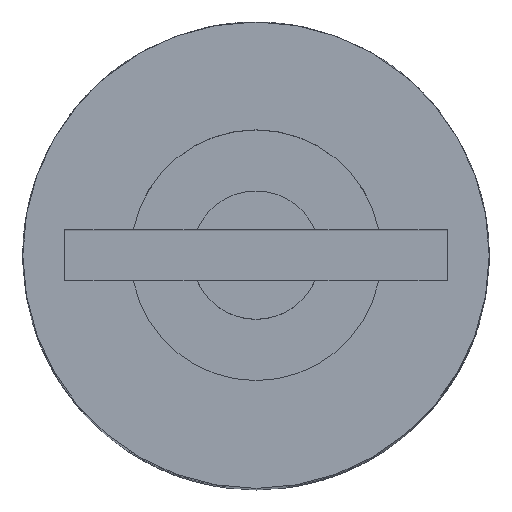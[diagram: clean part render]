
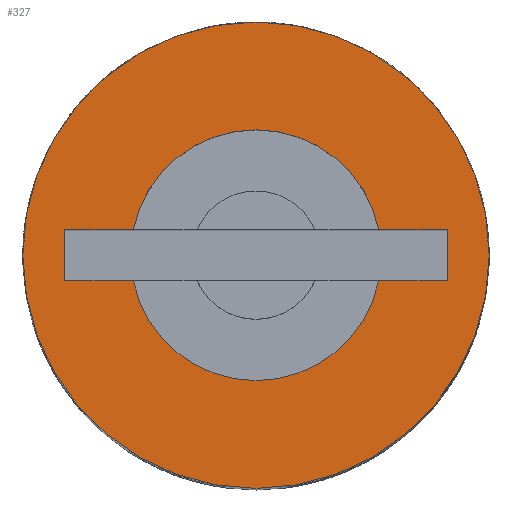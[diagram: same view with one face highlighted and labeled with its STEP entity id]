
A CAD part, top view. The second image highlights one B-rep face of the part: STEP entity #327.
In plain terms, the highlighted planar face has unit normal (0, 0, 1).
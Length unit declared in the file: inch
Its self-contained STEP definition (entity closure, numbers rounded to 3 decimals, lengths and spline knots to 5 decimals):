
#96 = DIRECTION ( 'NONE',  ( 0., 1., 0. ) ) ;
#181 = CARTESIAN_POINT ( 'NONE',  ( -0.205, -0.0275, 1.25 ) ) ;
#186 = DIRECTION ( 'NONE',  ( 1., 0., 0. ) ) ;
#327 = ADVANCED_FACE ( 'NONE', ( #506, #1076 ), #2774, .T. ) ;
#360 = ORIENTED_EDGE ( 'NONE', *, *, #2569, .F. ) ;
#445 = DIRECTION ( 'NONE',  ( 1., 0., 0. ) ) ;
#503 = VERTEX_POINT ( 'NONE', #2578 ) ;
#506 = FACE_BOUND ( 'NONE', #992, .T. ) ;
#553 = EDGE_CURVE ( 'NONE', #3384, #503, #2252, .T. ) ;
#597 = EDGE_CURVE ( 'NONE', #1011, #3226, #1145, .T. ) ;
#632 = AXIS2_PLACEMENT_3D ( 'NONE', #2062, #3153, #1764 ) ;
#743 = EDGE_CURVE ( 'NONE', #3671, #1011, #2680, .T. ) ;
#745 = ORIENTED_EDGE ( 'NONE', *, *, #3565, .F. ) ;
#781 = LINE ( 'NONE', #2834, #1868 ) ;
#782 = DIRECTION ( 'NONE',  ( 0., 0., 1. ) ) ;
#815 = ORIENTED_EDGE ( 'NONE', *, *, #553, .F. ) ;
#835 = AXIS2_PLACEMENT_3D ( 'NONE', #2481, #782, #186 ) ;
#836 = DIRECTION ( 'NONE',  ( 1., 0., 0. ) ) ;
#909 = VERTEX_POINT ( 'NONE', #1557 ) ;
#942 = CIRCLE ( 'NONE', #835, 0.25 ) ;
#992 = EDGE_LOOP ( 'NONE', ( #745, #1033, #2822, #2500, #815, #2462, #360, #3465 ) ) ;
#1011 = VERTEX_POINT ( 'NONE', #2382 ) ;
#1033 = ORIENTED_EDGE ( 'NONE', *, *, #597, .F. ) ;
#1067 = AXIS2_PLACEMENT_3D ( 'NONE', #1222, #3569, #3259 ) ;
#1073 = EDGE_LOOP ( 'NONE', ( #3115, #1419 ) ) ;
#1076 = FACE_OUTER_BOUND ( 'NONE', #1073, .T. ) ;
#1145 = LINE ( 'NONE', #2288, #2376 ) ;
#1222 = CARTESIAN_POINT ( 'NONE',  ( 0., 0., 1.25 ) ) ;
#1241 = VECTOR ( 'NONE', #2005, 39.37008 ) ;
#1267 = VERTEX_POINT ( 'NONE', #2516 ) ;
#1295 = VERTEX_POINT ( 'NONE', #181 ) ;
#1419 = ORIENTED_EDGE ( 'NONE', *, *, #3687, .T. ) ;
#1464 = EDGE_CURVE ( 'NONE', #909, #3727, #2682, .T. ) ;
#1557 = CARTESIAN_POINT ( 'NONE',  ( -0.25, 0., 1.25 ) ) ;
#1633 = CARTESIAN_POINT ( 'NONE',  ( 0.25, 0., 1.25 ) ) ;
#1656 = CARTESIAN_POINT ( 'NONE',  ( 0., 0., 1.25 ) ) ;
#1701 = VECTOR ( 'NONE', #3455, 39.37008 ) ;
#1764 = DIRECTION ( 'NONE',  ( 1., 0., 0. ) ) ;
#1806 = LINE ( 'NONE', #2950, #1241 ) ;
#1826 = CARTESIAN_POINT ( 'NONE',  ( 0.13155, 0.0275, 1.25 ) ) ;
#1868 = VECTOR ( 'NONE', #1936, 39.37008 ) ;
#1936 = DIRECTION ( 'NONE',  ( 1., 0., 0. ) ) ;
#1985 = CARTESIAN_POINT ( 'NONE',  ( 0.205, -0.0275, 1.25 ) ) ;
#1999 = AXIS2_PLACEMENT_3D ( 'NONE', #1656, #3660, #445 ) ;
#2005 = DIRECTION ( 'NONE',  ( -1., 0., 0. ) ) ;
#2062 = CARTESIAN_POINT ( 'NONE',  ( 0., 0., 1.25 ) ) ;
#2252 = CIRCLE ( 'NONE', #2742, 0.1344 ) ;
#2256 = DIRECTION ( 'NONE',  ( -1., 0., 0. ) ) ;
#2265 = CARTESIAN_POINT ( 'NONE',  ( 0.205, -0.0275, 1.25 ) ) ;
#2288 = CARTESIAN_POINT ( 'NONE',  ( -0.205, 0.0275, 1.25 ) ) ;
#2322 = CARTESIAN_POINT ( 'NONE',  ( -0.205, -0.0275, 1.25 ) ) ;
#2376 = VECTOR ( 'NONE', #2256, 39.37008 ) ;
#2382 = CARTESIAN_POINT ( 'NONE',  ( 0.205, 0.0275, 1.25 ) ) ;
#2410 = CARTESIAN_POINT ( 'NONE',  ( -0.205, 0.0275, 1.25 ) ) ;
#2462 = ORIENTED_EDGE ( 'NONE', *, *, #2845, .F. ) ;
#2481 = CARTESIAN_POINT ( 'NONE',  ( 0., 0., 1.25 ) ) ;
#2500 = ORIENTED_EDGE ( 'NONE', *, *, #3634, .F. ) ;
#2506 = CARTESIAN_POINT ( 'NONE',  ( -0.13155, -0.0275, 1.25 ) ) ;
#2516 = CARTESIAN_POINT ( 'NONE',  ( -0.13155, 0.0275, 1.25 ) ) ;
#2569 = EDGE_CURVE ( 'NONE', #3067, #1295, #3475, .T. ) ;
#2578 = CARTESIAN_POINT ( 'NONE',  ( 0.13155, -0.0275, 1.25 ) ) ;
#2591 = CARTESIAN_POINT ( 'NONE',  ( -0.205, -0.0275, 1.25 ) ) ;
#2680 = LINE ( 'NONE', #1985, #3277 ) ;
#2682 = CIRCLE ( 'NONE', #1067, 0.25 ) ;
#2689 = CIRCLE ( 'NONE', #632, 0.1344 ) ;
#2742 = AXIS2_PLACEMENT_3D ( 'NONE', #2839, #3421, #836 ) ;
#2774 = PLANE ( 'NONE',  #1999 ) ;
#2822 = ORIENTED_EDGE ( 'NONE', *, *, #743, .F. ) ;
#2834 = CARTESIAN_POINT ( 'NONE',  ( -0.205, -0.0275, 1.25 ) ) ;
#2839 = CARTESIAN_POINT ( 'NONE',  ( 0., 0., 1.25 ) ) ;
#2845 = EDGE_CURVE ( 'NONE', #1295, #3384, #781, .T. ) ;
#2950 = CARTESIAN_POINT ( 'NONE',  ( -0.205, 0.0275, 1.25 ) ) ;
#3057 = EDGE_CURVE ( 'NONE', #1267, #3067, #1806, .T. ) ;
#3067 = VERTEX_POINT ( 'NONE', #2410 ) ;
#3115 = ORIENTED_EDGE ( 'NONE', *, *, #1464, .T. ) ;
#3153 = DIRECTION ( 'NONE',  ( 0., 0., 1. ) ) ;
#3191 = LINE ( 'NONE', #2322, #3718 ) ;
#3226 = VERTEX_POINT ( 'NONE', #1826 ) ;
#3259 = DIRECTION ( 'NONE',  ( 1., 0., 0. ) ) ;
#3277 = VECTOR ( 'NONE', #96, 39.37008 ) ;
#3384 = VERTEX_POINT ( 'NONE', #2506 ) ;
#3421 = DIRECTION ( 'NONE',  ( 0., 0., 1. ) ) ;
#3455 = DIRECTION ( 'NONE',  ( 0., -1., 0. ) ) ;
#3465 = ORIENTED_EDGE ( 'NONE', *, *, #3057, .F. ) ;
#3475 = LINE ( 'NONE', #2591, #1701 ) ;
#3477 = DIRECTION ( 'NONE',  ( 1., 0., 0. ) ) ;
#3565 = EDGE_CURVE ( 'NONE', #3226, #1267, #2689, .T. ) ;
#3569 = DIRECTION ( 'NONE',  ( 0., 0., 1. ) ) ;
#3634 = EDGE_CURVE ( 'NONE', #503, #3671, #3191, .T. ) ;
#3660 = DIRECTION ( 'NONE',  ( 0., 0., 1. ) ) ;
#3671 = VERTEX_POINT ( 'NONE', #2265 ) ;
#3687 = EDGE_CURVE ( 'NONE', #3727, #909, #942, .T. ) ;
#3718 = VECTOR ( 'NONE', #3477, 39.37008 ) ;
#3727 = VERTEX_POINT ( 'NONE', #1633 ) ;
